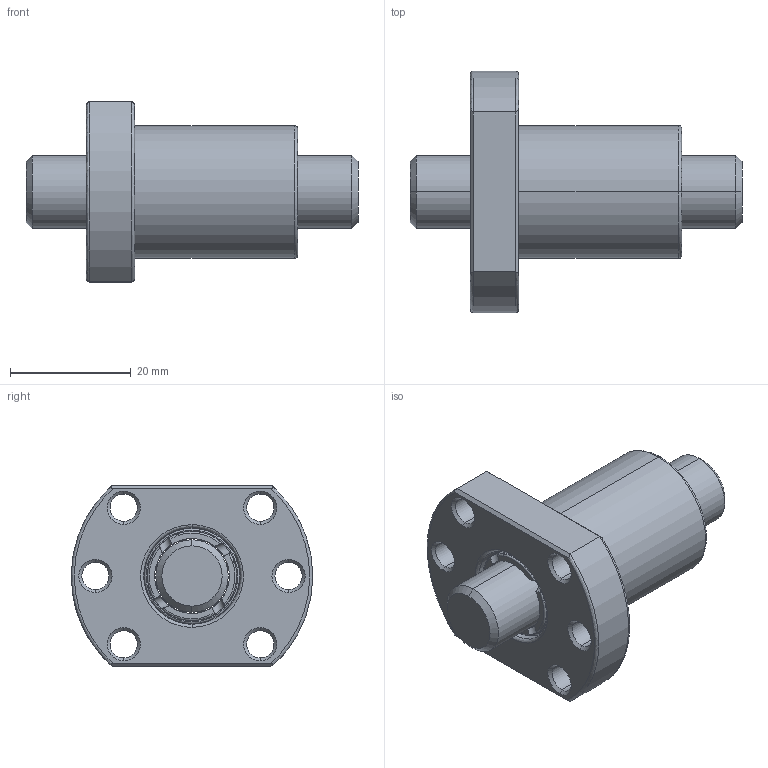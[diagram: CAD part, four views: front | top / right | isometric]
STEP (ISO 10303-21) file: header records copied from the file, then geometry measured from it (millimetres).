
FILE_DESCRIPTION (( 'STEP AP203' ), '1' );
FILE_NAME ('XFUR01204T4D-C.STEP', '2020-06-16T07:42:59', ( '' ), ( '' ), 'SwSTEP 2.0', 'SolidWorks 2013', '' );
FILE_SCHEMA (( 'CONFIG_CONTROL_DESIGN' ));
Length unit declared in the file: millimetre
Products named in the file (1): XFUR01204T4D-C
Bounding box: 55 x 40 x 30 mm (x, y, z)
Volume: 19360.4 mm3; surface area: 9777.1 mm2
Topology: 2 solids, 2 shells, 127 faces, 317 edges, 197 vertices
Faces by surface type: cylinder 52, plane 27, torus 20, cone 16, bspline 12
Entity records: 6268 total; most frequent: CARTESIAN_POINT 3223, ORIENTED_EDGE 634, DIRECTION 612, EDGE_CURVE 317, AXIS2_PLACEMENT_3D 262, VERTEX_POINT 197, EDGE_LOOP 148, CIRCLE 146
